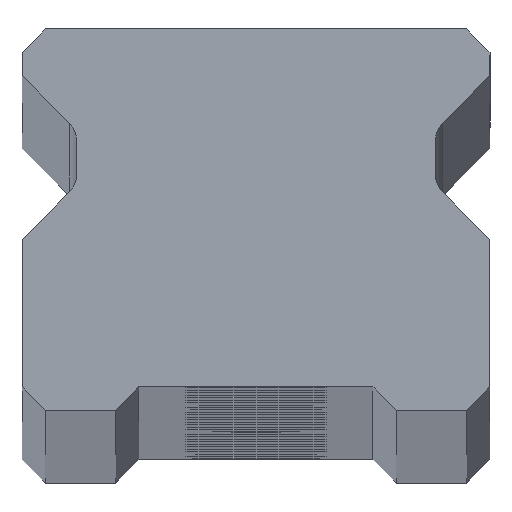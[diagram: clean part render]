
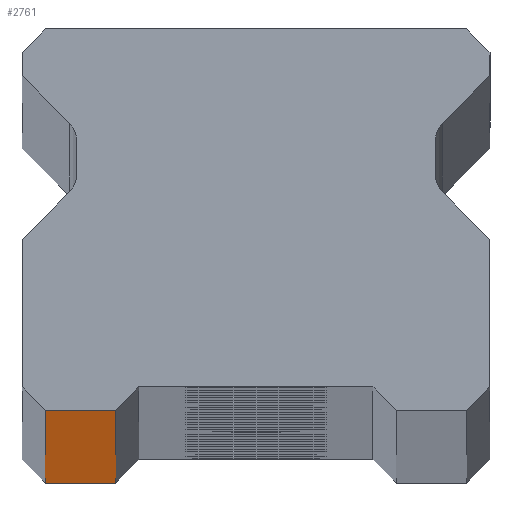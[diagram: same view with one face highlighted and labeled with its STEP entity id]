
A CAD part, top view. The second image highlights one B-rep face of the part: STEP entity #2761.
In plain terms, the highlighted planar face has unit normal (0, -1, 0).
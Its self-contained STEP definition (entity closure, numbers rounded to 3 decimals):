
#90 = LINE ( 'NONE', #2192, #2120 ) ;
#504 = VECTOR ( 'NONE', #771, 1000. ) ;
#771 = DIRECTION ( 'NONE',  ( 0., 0., 1. ) ) ;
#864 = CARTESIAN_POINT ( 'NONE',  ( -6., 0., -890. ) ) ;
#867 = FACE_OUTER_BOUND ( 'NONE', #2473, .T. ) ;
#982 = DIRECTION ( 'NONE',  ( 1., 0., 0. ) ) ;
#1238 = EDGE_CURVE ( 'NONE', #2630, #3281, #90, .T. ) ;
#1321 = CARTESIAN_POINT ( 'NONE',  ( -9., 0., 890. ) ) ;
#1805 = VERTEX_POINT ( 'NONE', #4485 ) ;
#1894 = ORIENTED_EDGE ( 'NONE', *, *, #3508, .T. ) ;
#2120 = VECTOR ( 'NONE', #982, 1000. ) ;
#2192 = CARTESIAN_POINT ( 'NONE',  ( 10., 0., 890. ) ) ;
#2473 = EDGE_LOOP ( 'NONE', ( #4397, #1894, #3754, #2882 ) ) ;
#2630 = VERTEX_POINT ( 'NONE', #4799 ) ;
#2761 = ADVANCED_FACE ( 'NONE', ( #867 ), #3685, .F. ) ;
#2787 = DIRECTION ( 'NONE',  ( 0., 1., 0. ) ) ;
#2882 = ORIENTED_EDGE ( 'NONE', *, *, #5196, .T. ) ;
#3139 = LINE ( 'NONE', #1321, #3474 ) ;
#3281 = VERTEX_POINT ( 'NONE', #3437 ) ;
#3315 = AXIS2_PLACEMENT_3D ( 'NONE', #4113, #2787, #4080 ) ;
#3437 = CARTESIAN_POINT ( 'NONE',  ( -6., 0., 890. ) ) ;
#3474 = VECTOR ( 'NONE', #4297, 1000. ) ;
#3494 = CARTESIAN_POINT ( 'NONE',  ( 10., 0., -890. ) ) ;
#3508 = EDGE_CURVE ( 'NONE', #5152, #3281, #3902, .T. ) ;
#3685 = PLANE ( 'NONE',  #3315 ) ;
#3754 = ORIENTED_EDGE ( 'NONE', *, *, #1238, .F. ) ;
#3902 = LINE ( 'NONE', #5074, #504 ) ;
#4080 = DIRECTION ( 'NONE',  ( -1., 0., 0. ) ) ;
#4085 = VECTOR ( 'NONE', #4352, 1000. ) ;
#4113 = CARTESIAN_POINT ( 'NONE',  ( 10., 0., 890. ) ) ;
#4297 = DIRECTION ( 'NONE',  ( 0., 0., -1. ) ) ;
#4352 = DIRECTION ( 'NONE',  ( 1., 0., 0. ) ) ;
#4397 = ORIENTED_EDGE ( 'NONE', *, *, #4655, .T. ) ;
#4485 = CARTESIAN_POINT ( 'NONE',  ( -9., 0., -890. ) ) ;
#4655 = EDGE_CURVE ( 'NONE', #1805, #5152, #4833, .T. ) ;
#4799 = CARTESIAN_POINT ( 'NONE',  ( -9., 0., 890. ) ) ;
#4833 = LINE ( 'NONE', #3494, #4085 ) ;
#5074 = CARTESIAN_POINT ( 'NONE',  ( -6., 0., -890. ) ) ;
#5152 = VERTEX_POINT ( 'NONE', #864 ) ;
#5196 = EDGE_CURVE ( 'NONE', #2630, #1805, #3139, .T. ) ;
